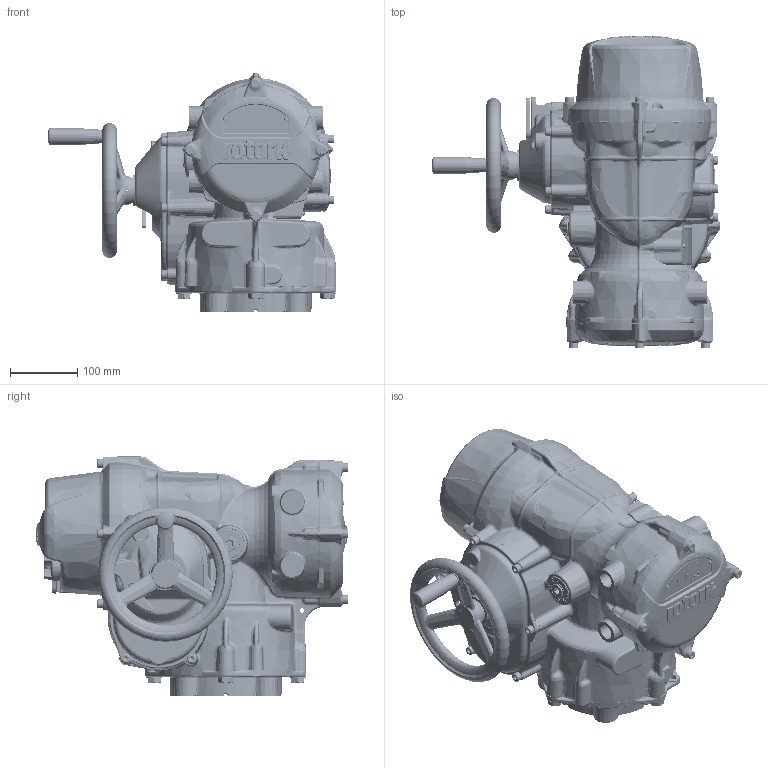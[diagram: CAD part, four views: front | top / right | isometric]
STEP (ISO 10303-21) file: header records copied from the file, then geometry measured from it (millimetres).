
FILE_DESCRIPTION(/* description */ ('Unknown'),/* implementation_level */ '2;1');
FILE_NAME(/* name */ 'IQT3 Size 3000 F',/* time_stamp */ '2018-11-28T10:17:04+00:00',/* author */ ('Unknown'),/* organization */ ('Unknown'),/* preprocessor_version */ 'ST-DEVELOPER v16.7',/* originating_system */ 'DEX',/* authorisation */ $);
FILE_SCHEMA (('AUTOMOTIVE_DESIGN {1 0 10303 214 3 1 1}'));
Length unit declared in the file: millimetre
Products named in the file (1): IQT3 Size 3000 F
Bounding box: 428.4 x 463.55 x 354.65 mm (x, y, z)
Volume: 28733.8 mm3; surface area: 774451.1 mm2
Topology: 20 solids, 40 shells, 10700 faces, 26753 edges, 16111 vertices
Faces by surface type: bspline 4391, plane 3609, cylinder 1264, cone 658, torus 528, sphere 250
Full cylindrical faces by diameter (mm): 1.152 x1, 1.366 x1, 2.301 x1, 2.487 x1, 3 x10, 3.5 x1, 4 x2, 4.917 x3, 5 x2, 5.2 x2, 6 x6, 6.45 x9, 6.47 x9, 6.647 x2, 6.72 x1, 6.8 x4, 8 x9, 8.1 x1, 8.5 x1, 9 x6, 9.83 x4, 9.85 x4, 10 x5, 12 x4, 12.1 x1, 12.75 x4, 13 x22, 16.75 x1, 17.835 x8, 18 x1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
Entity records: 533971 total; most frequent: CARTESIAN_POINT 245491, ORIENTED_EDGE 51448, DIRECTION 32506, EDGE_CURVE 25727, VERTEX_POINT 15873, AXIS2_PLACEMENT_3D 12122, B_SPLINE_CURVE_WITH_KNOTS 11647, FACE_BOUND 11645
